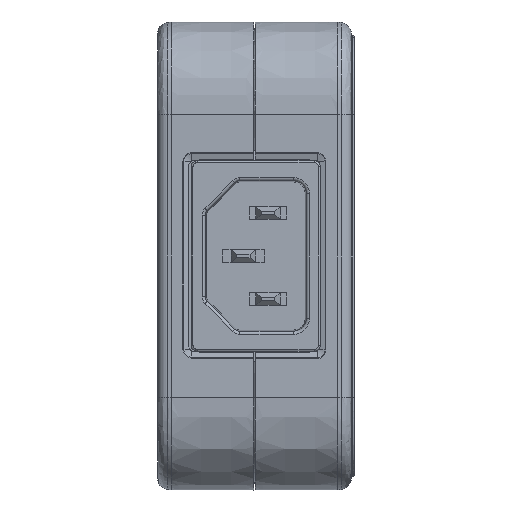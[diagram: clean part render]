
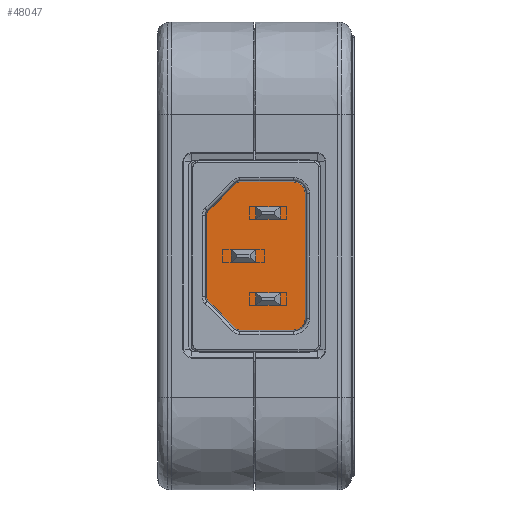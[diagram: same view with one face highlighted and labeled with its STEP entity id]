
A CAD part, left-side view. The second image highlights one B-rep face of the part: STEP entity #48047.
In plain terms, the highlighted planar face has unit normal (-1, 0, 0) as drawn and (0, 0, -1) by its records, which use the part's own axes.
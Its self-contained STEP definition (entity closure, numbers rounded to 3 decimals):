
#46076=DIRECTION('',(0.,-1.,0.));
#46077=VECTOR('',#46076,20.25);
#46078=CARTESIAN_POINT('',(32.758,29.888,-2.6));
#46079=LINE('',#46078,#46077);
#46088=DIRECTION('',(-1.,0.,0.));
#46089=VECTOR('',#46088,8.711);
#46090=CARTESIAN_POINT('',(30.829,7.709,-2.6));
#46091=LINE('',#46090,#46089);
#46100=CARTESIAN_POINT('',(30.829,9.638,-2.6));
#46101=DIRECTION('',(0.,0.,1.));
#46102=DIRECTION('',(0.,-1.,0.));
#46103=AXIS2_PLACEMENT_3D('',#46100,#46101,#46102);
#46105=CARTESIAN_POINT('',(30.829,29.888,-2.6));
#46106=DIRECTION('',(0.,0.,1.));
#46107=DIRECTION('',(1.,0.,0.));
#46108=AXIS2_PLACEMENT_3D('',#46105,#46106,#46107);
#46110=CARTESIAN_POINT('',(22.118,30.888,-2.6));
#46111=DIRECTION('',(0.,0.,1.));
#46112=DIRECTION('',(0.,1.,0.));
#46113=AXIS2_PLACEMENT_3D('',#46110,#46111,#46112);
#46115=DIRECTION('',(-0.707,-0.707,0.));
#46116=VECTOR('',#46115,6.419);
#46117=CARTESIAN_POINT('',(21.461,31.545,-2.6));
#46118=LINE('',#46117,#46116);
#46119=CARTESIAN_POINT('',(17.579,26.349,-2.6));
#46120=DIRECTION('',(0.,0.,1.));
#46121=DIRECTION('',(-0.707,0.707,0.));
#46122=AXIS2_PLACEMENT_3D('',#46119,#46120,#46121);
#46124=CARTESIAN_POINT('',(17.579,13.177,-2.6));
#46125=DIRECTION('',(0.,0.,1.));
#46126=DIRECTION('',(-1.,0.,0.));
#46127=AXIS2_PLACEMENT_3D('',#46124,#46125,#46126);
#46129=DIRECTION('',(0.707,-0.707,0.));
#46130=VECTOR('',#46129,6.419);
#46131=CARTESIAN_POINT('',(16.922,12.52,-2.6));
#46132=LINE('',#46131,#46130);
#46133=CARTESIAN_POINT('',(22.118,8.638,-2.6));
#46134=DIRECTION('',(0.,0.,1.));
#46135=DIRECTION('',(-0.707,-0.707,0.));
#46136=AXIS2_PLACEMENT_3D('',#46133,#46134,#46135);
#46138=DIRECTION('',(1.,0.,0.));
#46139=VECTOR('',#46138,8.711);
#46140=CARTESIAN_POINT('',(22.118,31.817,-2.6));
#46141=LINE('',#46140,#46139);
#46158=DIRECTION('',(0.,1.,0.));
#46159=VECTOR('',#46158,13.172);
#46160=CARTESIAN_POINT('',(16.649,13.177,-2.6));
#46161=LINE('',#46160,#46159);
#47227=CARTESIAN_POINT('',(32.758,29.888,-2.6));
#47228=VERTEX_POINT('',#47227);
#47229=CARTESIAN_POINT('',(30.829,31.817,-2.6));
#47230=VERTEX_POINT('',#47229);
#47232=CARTESIAN_POINT('',(32.758,9.638,-2.6));
#47234=VERTEX_POINT('',#47232);
#47235=CARTESIAN_POINT('',(30.829,7.709,-2.6));
#47237=VERTEX_POINT('',#47235);
#47240=CARTESIAN_POINT('',(22.118,7.709,-2.6));
#47242=VERTEX_POINT('',#47240);
#47243=CARTESIAN_POINT('',(21.461,7.981,-2.6));
#47244=VERTEX_POINT('',#47243);
#47247=CARTESIAN_POINT('',(22.118,31.817,-2.6));
#47248=VERTEX_POINT('',#47247);
#47249=CARTESIAN_POINT('',(21.461,31.545,-2.6));
#47250=VERTEX_POINT('',#47249);
#47251=CARTESIAN_POINT('',(16.922,27.006,-2.6));
#47252=VERTEX_POINT('',#47251);
#47253=CARTESIAN_POINT('',(16.649,26.349,-2.6));
#47254=VERTEX_POINT('',#47253);
#47255=CARTESIAN_POINT('',(16.649,13.177,-2.6));
#47256=VERTEX_POINT('',#47255);
#47257=CARTESIAN_POINT('',(16.922,12.52,-2.6));
#47258=VERTEX_POINT('',#47257);
#48021=CARTESIAN_POINT('',(24.704,19.763,-2.6));
#48022=DIRECTION('',(0.,0.,1.));
#48023=DIRECTION('',(-1.,0.,0.));
#48024=AXIS2_PLACEMENT_3D('',#48021,#48022,#48023);
#48025=PLANE('',#48024);
#48026=ORIENTED_EDGE('',*,*,#47986,.T.);
#48027=ORIENTED_EDGE('',*,*,#47971,.F.);
#48028=ORIENTED_EDGE('',*,*,#47956,.T.);
#48030=ORIENTED_EDGE('',*,*,#48029,.F.);
#48032=ORIENTED_EDGE('',*,*,#48031,.T.);
#48034=ORIENTED_EDGE('',*,*,#48033,.T.);
#48036=ORIENTED_EDGE('',*,*,#48035,.T.);
#48038=ORIENTED_EDGE('',*,*,#48037,.F.);
#48040=ORIENTED_EDGE('',*,*,#48039,.T.);
#48042=ORIENTED_EDGE('',*,*,#48041,.T.);
#48043=ORIENTED_EDGE('',*,*,#48011,.T.);
#48044=ORIENTED_EDGE('',*,*,#48001,.F.);
#48045=EDGE_LOOP('',(#48026,#48027,#48028,#48030,#48032,#48034,#48036,#48038,
#48040,#48042,#48043,#48044));
#48046=FACE_OUTER_BOUND('',#48045,.F.);
#46104=CIRCLE('',#46103,1.929);
#46109=CIRCLE('',#46108,1.929);
#46114=CIRCLE('',#46113,0.929);
#46123=CIRCLE('',#46122,0.929);
#46128=CIRCLE('',#46127,0.929);
#46137=CIRCLE('',#46136,0.929);
#47956=EDGE_CURVE('',#47228,#47230,#46109,.T.);
#47971=EDGE_CURVE('',#47228,#47234,#46079,.T.);
#47986=EDGE_CURVE('',#47237,#47234,#46104,.T.);
#48001=EDGE_CURVE('',#47237,#47242,#46091,.T.);
#48011=EDGE_CURVE('',#47244,#47242,#46137,.T.);
#48029=EDGE_CURVE('',#47248,#47230,#46141,.T.);
#48031=EDGE_CURVE('',#47248,#47250,#46114,.T.);
#48033=EDGE_CURVE('',#47250,#47252,#46118,.T.);
#48035=EDGE_CURVE('',#47252,#47254,#46123,.T.);
#48037=EDGE_CURVE('',#47256,#47254,#46161,.T.);
#48039=EDGE_CURVE('',#47256,#47258,#46128,.T.);
#48041=EDGE_CURVE('',#47258,#47244,#46132,.T.);
#48047=ADVANCED_FACE('',(#48046),#48025,.F.);
